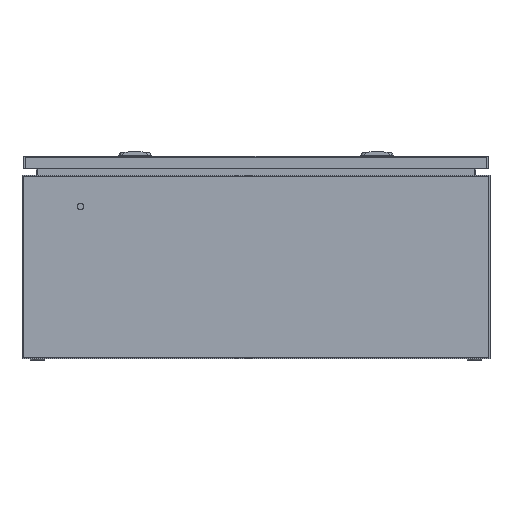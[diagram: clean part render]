
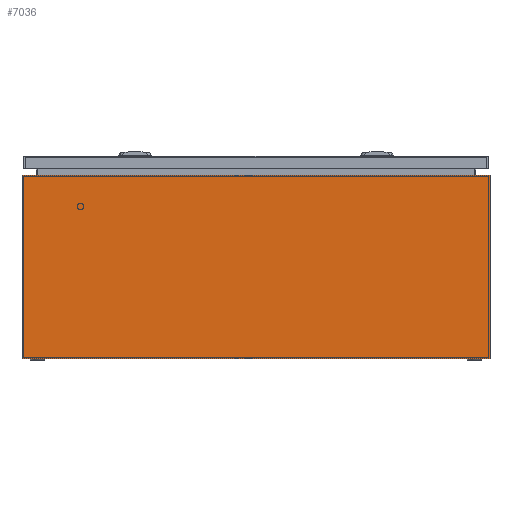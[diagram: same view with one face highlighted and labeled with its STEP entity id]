
A CAD part, left-side view. The second image highlights one B-rep face of the part: STEP entity #7036.
In plain terms, the highlighted planar face has unit normal (-1, 0, 0).
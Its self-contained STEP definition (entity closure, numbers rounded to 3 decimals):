
#301=LINE('',#10984,#987);
#315=LINE('',#11012,#1001);
#316=LINE('',#11014,#1002);
#317=LINE('',#11016,#1003);
#987=VECTOR('',#8835,1000.);
#1001=VECTOR('',#8859,1000.);
#1002=VECTOR('',#8860,1000.);
#1003=VECTOR('',#8861,1000.);
#1725=ORIENTED_EDGE('',*,*,#3681,.T.);
#1726=ORIENTED_EDGE('',*,*,#3667,.F.);
#1727=ORIENTED_EDGE('',*,*,#3682,.F.);
#1728=ORIENTED_EDGE('',*,*,#3683,.T.);
#3667=EDGE_CURVE('',#4642,#4643,#301,.T.);
#3681=EDGE_CURVE('',#4652,#4643,#315,.T.);
#3682=EDGE_CURVE('',#4653,#4642,#316,.T.);
#3683=EDGE_CURVE('',#4653,#4652,#317,.T.);
#4642=VERTEX_POINT('',#10983);
#4643=VERTEX_POINT('',#10985);
#4652=VERTEX_POINT('',#11013);
#4653=VERTEX_POINT('',#11015);
#5548=EDGE_LOOP('',(#1725,#1726,#1727,#1728));
#6146=FACE_BOUND('',#5548,.T.);
#6737=PLANE('',#8050);
#7036=ADVANCED_FACE('',(#6146),#6737,.F.);
#8050=AXIS2_PLACEMENT_3D('',#11011,#8857,#8858);
#8835=DIRECTION('',(0.,-1.,0.));
#8857=DIRECTION('',(1.,0.,0.));
#8858=DIRECTION('',(0.,0.,-1.));
#8859=DIRECTION('',(0.,0.,1.));
#8860=DIRECTION('',(0.,0.,1.));
#8861=DIRECTION('',(0.,-1.,0.));
#10983=CARTESIAN_POINT('',(-200.,600.,105.2));
#10984=CARTESIAN_POINT('',(-200.,600.,105.2));
#10985=CARTESIAN_POINT('',(-200.,0.,105.2));
#11011=CARTESIAN_POINT('',(-200.,600.,-130.));
#11012=CARTESIAN_POINT('',(-200.,0.,-130.));
#11013=CARTESIAN_POINT('',(-200.,0.,-130.));
#11014=CARTESIAN_POINT('',(-200.,600.,-130.));
#11015=CARTESIAN_POINT('',(-200.,600.,-130.));
#11016=CARTESIAN_POINT('',(-200.,600.,-130.));
